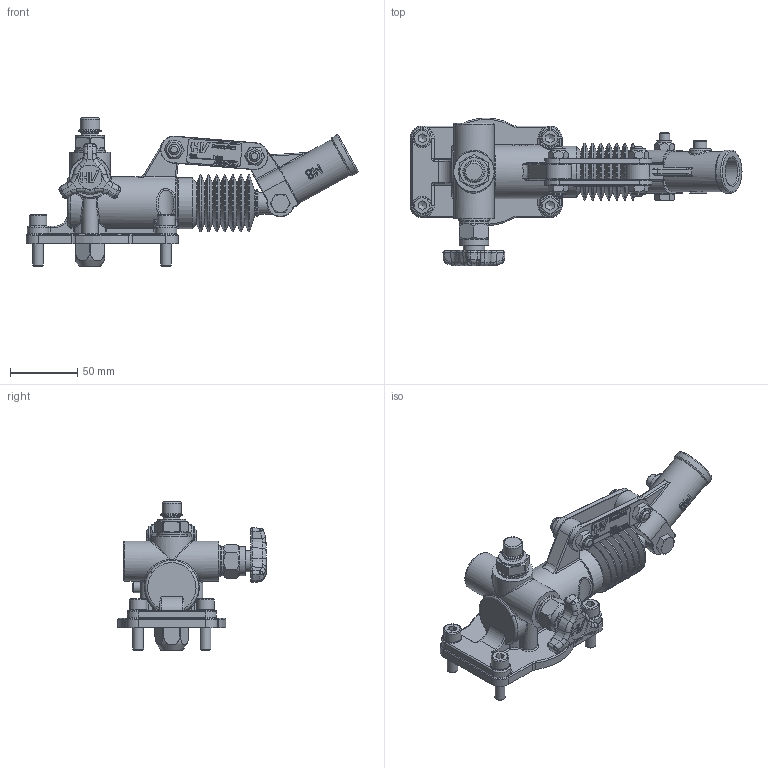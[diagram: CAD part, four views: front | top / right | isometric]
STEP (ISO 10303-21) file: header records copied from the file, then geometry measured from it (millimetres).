
FILE_DESCRIPTION((''),'2;1');
FILE_NAME('G:\HV_HYDRAULIC\AZIENDA_HV_HYDRAULIC\ARCHIVIO_DISEGNI\5_PRODOTTI_FINITI\1_POMPE_MANUALI\6066_PMSE_15\6066.0037_PMSE_15_s_(HV)\6066.0037.stp','2024-03-25T16:07:40',('christian.scardovi'),(''),'Autodesk Inventor 2013','Autodesk Inventor 2013','');
FILE_SCHEMA(('AUTOMOTIVE_DESIGN { 1 0 10303 214 1 1 1 1 }'));
Length unit declared in the file: millimetre
Products named in the file (1): 6066.0037
Bounding box: 246.63 x 110 x 110 mm (x, y, z)
Volume: 359727.9 mm3; surface area: 94563.9 mm2
Topology: 1 solids, 1 shells, 1587 faces, 3935 edges, 2422 vertices
Faces by surface type: plane 663, cylinder 302, bspline 290, torus 186, cone 121, sphere 25
Full cylindrical faces by diameter (mm): 5 x6, 6 x1, 6.5 x1, 8 x7, 9 x2, 9.5 x2, 10 x2, 11.05 x5, 11.6 x1, 12 x4, 13 x4, 13.5 x1, 14 x4, 14.5 x1, 14.95 x3, 16 x2, 16.5 x1, 18 x1, 20 x1, 20.5 x2, 21 x2, 21.8 x2, 22 x3, 23 x3, 30 x4, 32 x1, 38.004 x1
Entity records: 56359 total; most frequent: CARTESIAN_POINT 20094, ORIENTED_EDGE 7356, DIRECTION 6599, EDGE_CURVE 3678, AXIS2_PLACEMENT_3D 2409, VERTEX_POINT 2368, EDGE_LOOP 1876, VECTOR 1781
